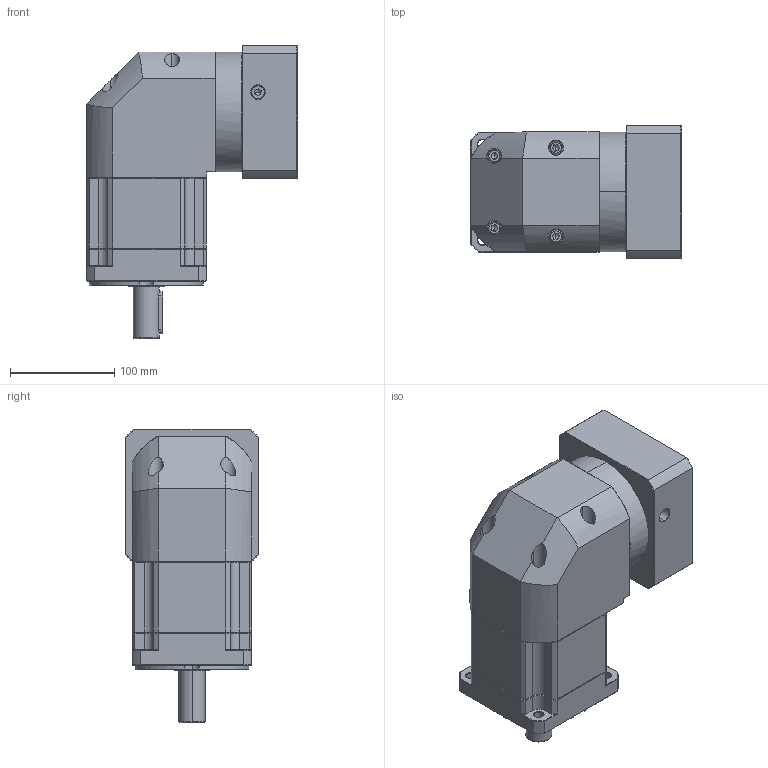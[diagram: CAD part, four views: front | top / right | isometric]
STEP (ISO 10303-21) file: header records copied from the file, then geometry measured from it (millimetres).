
FILE_DESCRIPTION (( 'STEP AP214' ), '1' );
FILE_NAME ('ZBR115A-D25-L2-P2-28-110-145-M8.step', '2023-08-26T12:33:49', ( '' ), ( '' ), 'SwSTEP 2.0', 'SolidWorks 2016', '' );
FILE_SCHEMA (( 'AUTOMOTIVE_DESIGN' ));
Length unit declared in the file: millimetre
Products named in the file (1): ZBR115A-D25-L2-P2-28-110-145-M8
Bounding box: 202.4 x 128 x 281.5 mm (x, y, z)
Volume: 3476582.7 mm3; surface area: 273158.1 mm2
Topology: 6 solids, 6 shells, 2381 faces, 6233 edges, 3953 vertices
Faces by surface type: plane 1140, cylinder 439, bspline 425, cone 369, torus 8
Entity records: 128022 total; most frequent: CARTESIAN_POINT 46908, ORIENTED_EDGE 12406, DIRECTION 9770, EDGE_CURVE 6203, VECTOR 3994, LINE 3994, VERTEX_POINT 3953, AXIS2_PLACEMENT_3D 2888
